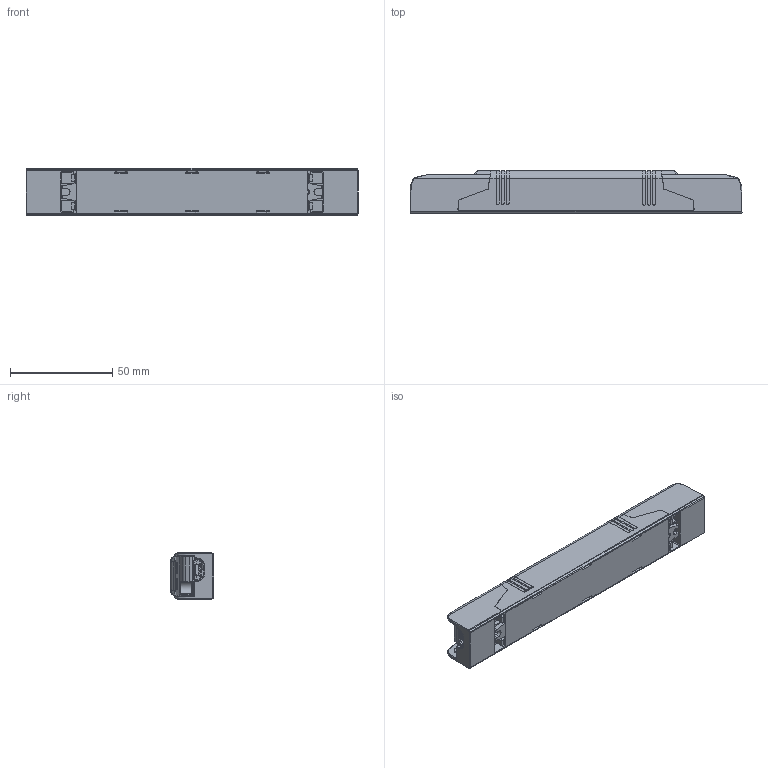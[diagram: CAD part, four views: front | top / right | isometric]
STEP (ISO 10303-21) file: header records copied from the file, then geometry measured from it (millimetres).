
FILE_DESCRIPTION((''),'2;1');
FILE_NAME('R73_250430_ASM_5_ASM_ASM','2026-03-17T10:43:04',('kg6302'),(''),'CREO PARAMETRIC BY PTC INC, 2021023','CREO PARAMETRIC BY PTC INC, 2021023','');
FILE_SCHEMA(('AUTOMOTIVE_DESIGN { 1 0 10303 214 1 1 1 1 }'));
Length unit declared in the file: millimetre
Products named in the file (7): R73-MK_2_1; R73-DK_2_1; R73-CG1_11_1; K33202402200001_1_1; 731_1; R73_250430_ASM_5_ASM_1_ASM; R73_250430_ASM_5_ASM_ASM
Assembly tree (9 placements, depth 3):
  R73_250430_ASM_5_ASM_ASM
    R73_250430_ASM_5_ASM_1_ASM
      R73-MK_2_1
      R73-DK_2_1
      R73-CG1_11_1  x2
      K33202402200001_1_1
      731_1
    731_1
    K33202402200001_1_1
Bounding box: 162.65 x 21.09 x 23.15 mm (x, y, z)
Volume: 21443.4 mm3; surface area: 37031.5 mm2
Topology: 8 solids, 8 shells, 1917 faces, 5436 edges, 3550 vertices
Faces by surface type: plane 1135, cylinder 620, bspline 92, torus 62, sphere 8
Entity records: 54322 total; most frequent: CARTESIAN_POINT 10878, ORIENTED_EDGE 7032, DIRECTION 6137, PRESENTATION_STYLE_ASSIGNMENT 3601, STYLED_ITEM 3523, CURVE_STYLE 3516, EDGE_CURVE 3516, VECTOR 2475
